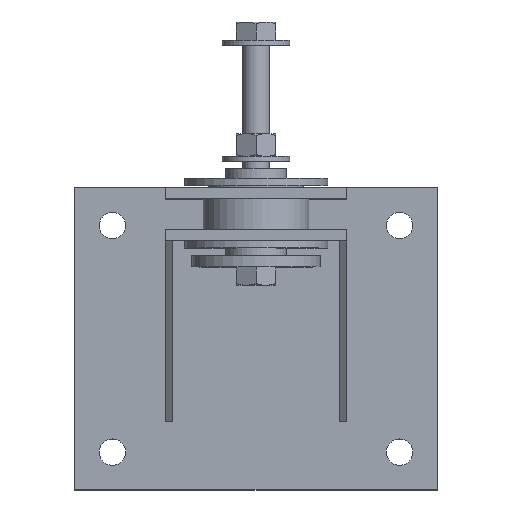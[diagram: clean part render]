
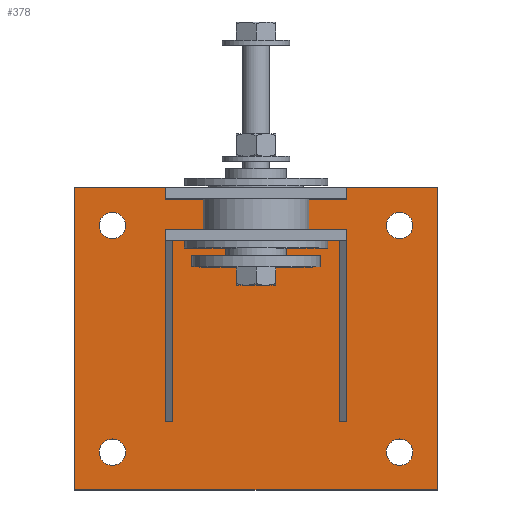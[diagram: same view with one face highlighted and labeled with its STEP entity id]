
A CAD part, top view. The second image highlights one B-rep face of the part: STEP entity #378.
In plain terms, the highlighted planar face has unit normal (0, 0, 1).
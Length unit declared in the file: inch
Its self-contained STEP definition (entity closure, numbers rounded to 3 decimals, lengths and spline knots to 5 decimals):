
#135=CARTESIAN_POINT('',(8.69197,-10.47002,0.375));
#136=VERTEX_POINT('',#135);
#137=CARTESIAN_POINT('',(8.25447,-10.47002,0.375));
#138=DIRECTION('',(0.0,0.0,-1.0));
#139=DIRECTION('',(1.0,0.0,0.0));
#140=AXIS2_PLACEMENT_3D('',#137,#138,#139);
#141=CIRCLE('',#140,0.4375);
#142=EDGE_CURVE('',#136,#136,#141,.T.);
#163=CARTESIAN_POINT('',(1.19197,-10.47002,0.375));
#164=VERTEX_POINT('',#163);
#165=CARTESIAN_POINT('',(0.75447,-10.47002,0.375));
#166=DIRECTION('',(0.0,0.0,-1.0));
#167=DIRECTION('',(1.0,0.0,0.0));
#168=AXIS2_PLACEMENT_3D('',#165,#166,#167);
#169=CIRCLE('',#168,0.4375);
#170=EDGE_CURVE('',#164,#164,#169,.T.);
#191=CARTESIAN_POINT('',(8.69197,-0.97002,0.375));
#192=VERTEX_POINT('',#191);
#193=CARTESIAN_POINT('',(8.25447,-0.97002,0.375));
#194=DIRECTION('',(0.0,0.0,-1.0));
#195=DIRECTION('',(1.0,0.0,0.0));
#196=AXIS2_PLACEMENT_3D('',#193,#194,#195);
#197=CIRCLE('',#196,0.4375);
#198=EDGE_CURVE('',#192,#192,#197,.T.);
#219=CARTESIAN_POINT('',(1.19197,-0.97002,0.375));
#220=VERTEX_POINT('',#219);
#221=CARTESIAN_POINT('',(0.75447,-0.97002,0.375));
#222=DIRECTION('',(0.0,0.0,-1.0));
#223=DIRECTION('',(1.0,0.0,0.0));
#224=AXIS2_PLACEMENT_3D('',#221,#222,#223);
#225=CIRCLE('',#224,0.4375);
#226=EDGE_CURVE('',#220,#220,#225,.T.);
#236=CARTESIAN_POINT('',(9.50447,0.27998,0.375));
#237=VERTEX_POINT('',#236);
#238=CARTESIAN_POINT('',(9.50447,-11.72002,0.375));
#239=VERTEX_POINT('',#238);
#240=CARTESIAN_POINT('',(9.50447,0.27998,0.375));
#241=DIRECTION('',(0.0,-1.0,0.0));
#242=VECTOR('',#241,12.0);
#243=LINE('',#240,#242);
#244=EDGE_CURVE('',#237,#239,#243,.T.);
#276=CARTESIAN_POINT('',(-0.49553,-11.72002,0.375));
#277=VERTEX_POINT('',#276);
#278=CARTESIAN_POINT('',(9.50447,-11.72002,0.375));
#279=DIRECTION('',(-1.0,0.0,0.0));
#280=VECTOR('',#279,10.);
#281=LINE('',#278,#280);
#282=EDGE_CURVE('',#239,#277,#281,.T.);
#307=CARTESIAN_POINT('',(-0.49553,0.27998,0.375));
#308=VERTEX_POINT('',#307);
#309=CARTESIAN_POINT('',(-0.49553,-11.72002,0.375));
#310=DIRECTION('',(0.0,1.0,0.0));
#311=VECTOR('',#310,12.0);
#312=LINE('',#309,#311);
#313=EDGE_CURVE('',#277,#308,#312,.T.);
#338=CARTESIAN_POINT('',(-0.49553,0.27998,0.375));
#339=DIRECTION('',(1.0,0.0,0.0));
#340=VECTOR('',#339,10.0);
#341=LINE('',#338,#340);
#342=EDGE_CURVE('',#308,#237,#341,.T.);
#355=CARTESIAN_POINT('',(4.50447,-5.72002,0.375));
#356=DIRECTION('',(0.0,0.0,1.0));
#357=DIRECTION('',(1.0,0.0,0.0));
#358=AXIS2_PLACEMENT_3D('',#355,#356,#357);
#359=PLANE('',#358);
#360=ORIENTED_EDGE('',*,*,#244,.F.);
#361=ORIENTED_EDGE('',*,*,#342,.F.);
#362=ORIENTED_EDGE('',*,*,#313,.F.);
#363=ORIENTED_EDGE('',*,*,#282,.F.);
#364=EDGE_LOOP('',(#360,#361,#362,#363));
#365=FACE_OUTER_BOUND('',#364,.T.);
#366=ORIENTED_EDGE('',*,*,#142,.T.);
#367=EDGE_LOOP('',(#366));
#368=FACE_BOUND('',#367,.T.);
#369=ORIENTED_EDGE('',*,*,#170,.T.);
#370=EDGE_LOOP('',(#369));
#371=FACE_BOUND('',#370,.T.);
#372=ORIENTED_EDGE('',*,*,#198,.T.);
#373=EDGE_LOOP('',(#372));
#374=FACE_BOUND('',#373,.T.);
#375=ORIENTED_EDGE('',*,*,#226,.T.);
#376=EDGE_LOOP('',(#375));
#377=FACE_BOUND('',#376,.T.);
#378=ADVANCED_FACE('',(#365,#368,#371,#374,#377),#359,.T.);
